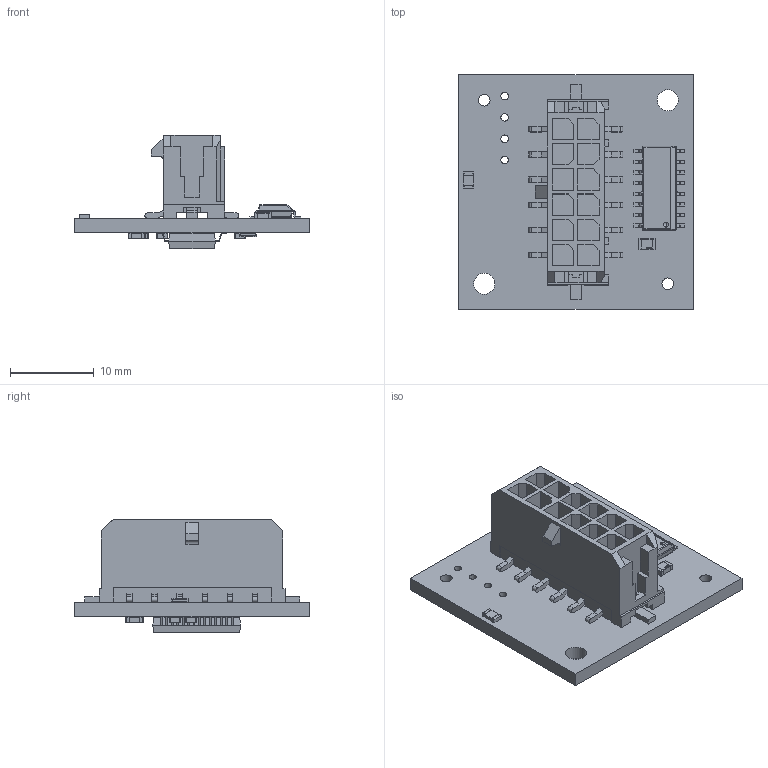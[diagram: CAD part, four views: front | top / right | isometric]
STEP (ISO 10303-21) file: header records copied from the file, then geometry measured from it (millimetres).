
FILE_DESCRIPTION(('Open CASCADE Model'),'2;1');
FILE_NAME('Open CASCADE Shape Model','2021-07-27T14:29:04',('Author'),( 'Open CASCADE'),'Open CASCADE STEP processor 6.8','Open CASCADE 6.8' ,'Unknown');
FILE_SCHEMA(('AUTOMOTIVE_DESIGN { 1 0 10303 214 1 1 1 1 }'));
Length unit declared in the file: millimetre
Products named in the file (22): PCB; Board; C1; C0805; C4; C5; C6; C7; IC2; SW3dPS-SSOP-28; L1; SW3dPS-R0805; P1; 430451219; Open CASCADE STEP translator 6.8 5.9.1.1; Open CASCADE STEP translator 6.8 5.9.1.2; R2; C8; R1; C9; IC1; SW3dPS-SOIC127P600X175-16
Assembly tree (29 placements, depth 4):
  PCB
    Board
    C1
      C0805
    C4
      C0805
    C5
      C0805
    C6
      C0805
    C7
      C0805
    IC2
      SW3dPS-SSOP-28
    L1
      SW3dPS-R0805
    P1
      430451219
        Open CASCADE STEP translator 6.8 5.9.1.1
        Open CASCADE STEP translator 6.8 5.9.1.2
    R2
      SW3dPS-R0805
    C8
      C0805
    R1
      SW3dPS-R0805
    C9
      C0805
    IC1
      SW3dPS-SOIC127P600X175-16
Bounding box: 28 x 28 x 13.57 mm (x, y, z)
Volume: 2346.8 mm3; surface area: 4264.6 mm2
Topology: 65 solids, 65 shells, 2088 faces, 5484 edges, 3617 vertices
Faces by surface type: plane 1232, cylinder 424, bspline 420, sphere 12
Full cylindrical faces by diameter (mm): 0.9 x4, 1.4 x2, 2.5 x2
Entity records: 49516 total; most frequent: CARTESIAN_POINT 12113, ORIENTED_EDGE 6906, DIRECTION 6508, EDGE_CURVE 3453, LINE 2796, VECTOR 2796, VERTEX_POINT 2267, AXIS2_PLACEMENT_3D 1856
